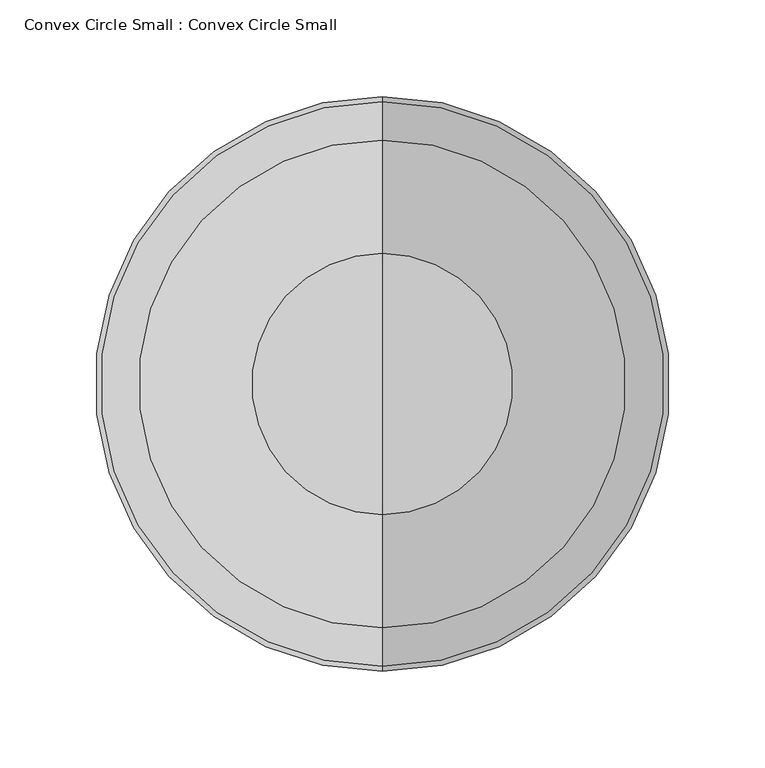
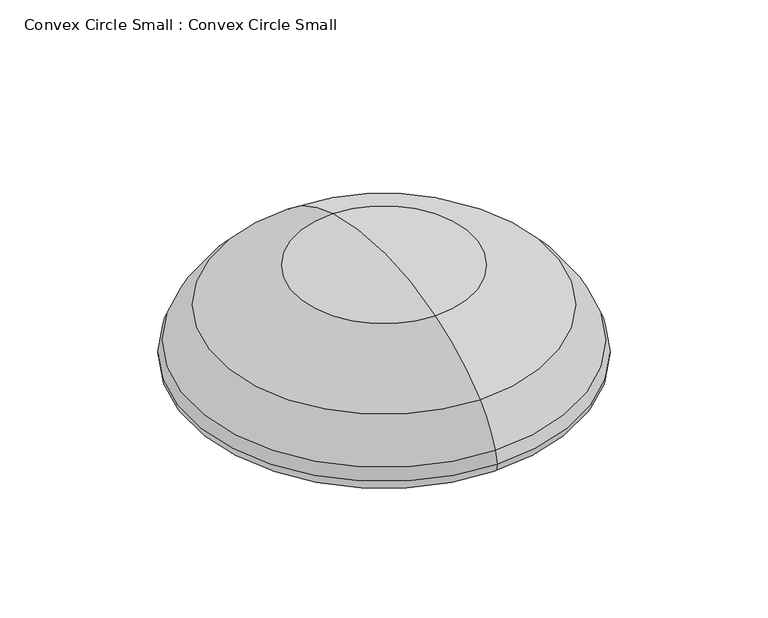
"""IFC4 building model written with IfcOpenShell, lengths in millimetres: furniture geometry, Convex Circle Small : Convex Circle Small."""

from ifc_helpers import new_model, si_unit, point, frame, origin, place, context, project, spatial, polyline, circle_curve, ellipse_curve, trimmed, source, transform, mapped, element, save
from ifc_brep_helpers import plane_surface, cylinder_surface, revolved_surface, advanced_brep


def convex_circle_small_convex_circle_small_b8fd611a(model_context):
    return source(origin(), model_context, "Body", "AdvancedBrep", [
        advanced_brep(
        [(0.0, -200.0, 0.0), (0.0, 50.0, 0.0), (0.0, 50.0, 12.0), (0.0, -200.0, 12.0), (0.0, -213.4704598, 0.0), (0.0, 63.4704598, 0.0), (0.0, -223.6853692, 10.2149093), (0.0, 73.6853692, 10.2149093), (0.0, -221.1133169, 19.8784773), (0.0, 71.1133169, 19.8784773), (0.0, -201.2142221, 48.4897953), (0.0, 51.2142221, 48.4897953), (0.0, -142.6727042, 80.2950266), (0.0, -7.3272958, 80.2950266), (0.0, -75.0, 90.0), (0.0, -75.0, 12.0)],
        [
            (0, 1, circle_curve(frame((0.0, -75.0, 0.0), z_axis=(0.0, 0.0, -1.0), x_axis=(0.0, 1.0, 0.0)), 125.0)),
            (1, 2),
            (2, 3, circle_curve(frame((0.0, -75.0, 12.0), z_axis=(0.0, 0.0, 1.0), x_axis=(0.0, 1.0, 0.0)), 125.0)),
            (3, 0),
            (1, 0, circle_curve(frame((0.0, -75.0, 0.0), z_axis=(0.0, 0.0, -1.0), x_axis=(0.0, 1.0, 0.0)), 125.0)),
            (3, 2, circle_curve(frame((0.0, -75.0, 12.0), z_axis=(0.0, 0.0, 1.0), x_axis=(0.0, 1.0, 0.0)), 125.0)),
            (4, 5, circle_curve(frame((0.0, -75.0, 0.0), z_axis=(0.0, 0.0, -1.0), x_axis=(0.0, 1.0, 0.0)), 138.4704598)),
            (5, 1),
            (0, 4),
            (5, 4, circle_curve(frame((0.0, -75.0, 0.0), z_axis=(0.0, 0.0, -1.0), x_axis=(0.0, 1.0, 0.0)), 138.4704598)),
            (6, 7, circle_curve(frame((0.0, -75.0, 10.2149093), z_axis=(0.0, 0.0, -1.0), x_axis=(0.0, 1.0, 0.0)), 148.6853692)),
            (7, 5, circle_curve(frame((0.0, 63.4704598, 10.2149093), z_axis=(-1.0, 0.0, 0.0), x_axis=(0.0, -1.0, 0.0)), 10.2149093)),
            (4, 6, circle_curve(frame((0.0, -213.4704598, 10.2149093), z_axis=(-1.0, 0.0, 0.0), x_axis=(0.0, 1.0, 0.0)), 10.2149093)),
            (7, 6, circle_curve(frame((0.0, -75.0, 10.2149093), z_axis=(0.0, 0.0, -1.0), x_axis=(0.0, 1.0, 0.0)), 148.6853692)),
            (8, 9, circle_curve(frame((0.0, -75.0, 19.8784773), z_axis=(0.0, 0.0, -1.0), x_axis=(0.0, 1.0, 0.0)), 146.1133169)),
            (9, 7, circle_curve(frame((0.0, 34.2916169, 4.9039525), z_axis=(-1.0, 0.0, 0.0), x_axis=(0.0, -1.0, 0.0)), 39.7501444)),
            (6, 8, circle_curve(frame((0.0, -184.2916169, 4.9039525), z_axis=(-1.0, 0.0, 0.0), x_axis=(0.0, 1.0, 0.0)), 39.7501444)),
            (9, 8, circle_curve(frame((0.0, -75.0, 19.8784773), z_axis=(0.0, 0.0, -1.0), x_axis=(0.0, 1.0, 0.0)), 146.1133169)),
            (10, 11, circle_curve(frame((0.0, -75.0, 48.4897953), z_axis=(0.0, 0.0, -1.0), x_axis=(0.0, 1.0, 0.0)), 126.2142221)),
            (11, 9, circle_curve(frame((0.0, -5.9688704, -12.5064344), z_axis=(-1.0, 0.0, 0.0), x_axis=(0.0, -1.0, 0.0)), 83.6088877)),
            (8, 10, circle_curve(frame((0.0, -144.0311296, -12.5064344), z_axis=(-1.0, 0.0, 0.0), x_axis=(0.0, 1.0, 0.0)), 83.6088877)),
            (11, 10, circle_curve(frame((0.0, -75.0, 48.4897953), z_axis=(0.0, 0.0, -1.0), x_axis=(0.0, 1.0, 0.0)), 126.2142221)),
            (12, 13, circle_curve(frame((0.0, -75.0, 80.2950266), z_axis=(0.0, 0.0, -1.0), x_axis=(0.0, 1.0, 0.0)), 67.6727042)),
            (13, 11, circle_curve(frame((0.0, -47.6578258, -63.7174924), z_axis=(-1.0, 0.0, 0.0), x_axis=(0.0, -1.0, 0.0)), 149.5531921)),
            (10, 12, circle_curve(frame((0.0, -102.3421742, -63.7174924), z_axis=(-1.0, 0.0, 0.0), x_axis=(0.0, 1.0, 0.0)), 149.5531921)),
            (13, 12, circle_curve(frame((0.0, -75.0, 80.2950266), z_axis=(0.0, 0.0, -1.0), x_axis=(0.0, 1.0, 0.0)), 67.6727042)),
            (14, 13, circle_curve(frame((0.0, -73.0258605, -137.0274464), z_axis=(-1.0, 0.0, 0.0), x_axis=(0.0, -1.0, 0.0)), 227.0360294)),
            (12, 14, circle_curve(frame((0.0, -76.9741395, -137.0274464), z_axis=(-1.0, 0.0, 0.0), x_axis=(0.0, 1.0, 0.0)), 227.0360294)),
            (2, 15),
            (15, 3),
        ],
        [
            revolved_surface(polyline([(0.0, 50.0, 12.0), (0.0, 50.0, 0.0)]), (0.0, -75.0, -13.0), (0.0, 0.0, 1.0)),
            plane_surface(frame((0.0, -75.0, 0.0), z_axis=(0.0, 0.0, -1.0), x_axis=(0.0, 1.0, 0.0))),
            revolved_surface(trimmed(ellipse_curve(frame((0.0, 63.4704598, 10.2149093), z_axis=(1.0, 0.0, 0.0), x_axis=(0.0, -1.0, 0.0)), 10.2149093, 10.2149093), [point((0.0, 63.4704598, 0.0))], [point((0.0, 73.6853692, 10.2149093))], True, "CARTESIAN"), (0.0, -75.0, -13.0), (0.0, 0.0, 1.0)),
            revolved_surface(trimmed(ellipse_curve(frame((0.0, 34.2916169, 4.9039525), z_axis=(1.0, 0.0, 0.0), x_axis=(0.0, -1.0, 0.0)), 39.7501444, 39.7501444), [point((0.0, 73.6853692, 10.2149093))], [point((0.0, 71.1133169, 19.8784773))], True, "CARTESIAN"), (0.0, -75.0, -13.0), (0.0, 0.0, 1.0)),
            revolved_surface(trimmed(ellipse_curve(frame((0.0, -5.9688704, -12.5064344), z_axis=(1.0, 0.0, 0.0), x_axis=(0.0, -1.0, 0.0)), 83.6088877, 83.6088877), [point((0.0, 71.1133169, 19.8784773))], [point((0.0, 51.2142221, 48.4897953))], True, "CARTESIAN"), (0.0, -75.0, -13.0), (0.0, 0.0, 1.0)),
            revolved_surface(trimmed(ellipse_curve(frame((0.0, -47.6578258, -63.7174924), z_axis=(1.0, 0.0, 0.0), x_axis=(0.0, -1.0, 0.0)), 149.5531921, 149.5531921), [point((0.0, 51.2142221, 48.4897953))], [point((0.0, -7.3272958, 80.2950266))], True, "CARTESIAN"), (0.0, -75.0, -13.0), (0.0, 0.0, 1.0)),
            revolved_surface(trimmed(ellipse_curve(frame((0.0, -73.0258605, -137.0274464), z_axis=(1.0, 0.0, 0.0), x_axis=(0.0, -1.0, 0.0)), 227.0360294, 227.0360294), [point((0.0, -7.3272958, 80.2950266))], [point((0.0, -75.0, 90.0))], True, "CARTESIAN"), (0.0, -75.0, -13.0), (0.0, 0.0, 1.0)),
            plane_surface(frame((0.0, -75.0, 12.0), z_axis=(0.0, 0.0, -1.0), x_axis=(0.0, 1.0, 0.0))),
        ],
        [
            (0, [[1, 2, 3, 4]]),
            (0, [[5, -4, 6, -2]]),
            (1, [[7, 8, -1, 9]]),
            (1, [[10, -9, -5, -8]]),
            (2, [[11, 12, -7, 13]]),
            (2, [[14, -13, -10, -12]]),
            (3, [[15, 16, -11, 17]]),
            (3, [[18, -17, -14, -16]]),
            (4, [[19, 20, -15, 21]]),
            (4, [[22, -21, -18, -20]]),
            (5, [[23, 24, -19, 25]]),
            (5, [[26, -25, -22, -24]]),
            (6, [[27, -23, 28]]),
            (6, [[-28, -26, -27]]),
            (7, [[-3, 29, 30]]),
            (7, [[-6, -30, -29]]),
        ],
    ),
        advanced_brep(
        [(-124.9999998, -75.0, 0.0), (-124.9999998, -75.0, 12.0), (125.0000002, -75.0, 12.0), (125.0000002, -75.0, 0.0), (2.9999954, -10.1408866, 0.0), (-3.0000046, -10.1408866, 0.0), (-3.0000046, -10.1408866, 8.0), (2.9999954, -10.1408866, 8.0), (-3.0000046, 0.0050114, 0.0), (-3.0000046, 0.0050114, 8.0), (2.9999954, 0.0050114, 0.0), (2.9999954, 0.0050114, 8.0)],
        [
            (0, 1),
            (1, 2, circle_curve(frame((2e-07, -75.0, 12.0), z_axis=(0.0, 0.0, -1.0), x_axis=(-1.0, 0.0, 0.0)), 125.0)),
            (2, 3),
            (3, 0, circle_curve(frame((2e-07, -75.0, 0.0), z_axis=(0.0, 0.0, 1.0), x_axis=(-1.0, 0.0, 0.0)), 125.0)),
            (4, 5, circle_curve(frame((-4.6e-06, -13.4949886, 0.0), z_axis=(0.0, 0.0, -1.0), x_axis=(-0.6666666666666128, 0.745355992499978, 0.0)), 4.5)),
            (5, 6),
            (6, 7, circle_curve(frame((-4.6e-06, -13.4949886, 8.0), z_axis=(0.0, 0.0, 1.0), x_axis=(-0.6666666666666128, 0.745355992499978, 0.0)), 4.5)),
            (7, 4),
            (5, 8),
            (8, 9),
            (9, 6),
            (8, 10, circle_curve(frame((-4.6e-06, 0.0050114, 0.0), z_axis=(0.0, 0.0, -1.0), x_axis=(1.0, 0.0, 0.0)), 3.0)),
            (10, 11),
            (11, 9, circle_curve(frame((-4.6e-06, 0.0050114, 8.0), z_axis=(0.0, 0.0, 1.0), x_axis=(1.0, 0.0, 0.0)), 3.0)),
            (10, 4),
            (7, 11),
            (0, 3, circle_curve(frame((2e-07, -75.0, 0.0), z_axis=(0.0, 0.0, 1.0), x_axis=(-1.0, 0.0, 0.0)), 125.0)),
            (2, 1, circle_curve(frame((2e-07, -75.0, 12.0), z_axis=(0.0, 0.0, -1.0), x_axis=(-1.0, 0.0, 0.0)), 125.0)),
        ],
        [
            cylinder_surface(frame((2e-07, -75.0, 0.0), z_axis=(0.0, 0.0, 1.0), x_axis=(-1.0, 0.0, 0.0)), 125.0),
            revolved_surface(polyline([(-3.0000045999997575, -10.140886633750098, 8.0), (-3.0000045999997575, -10.140886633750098, 0.0)]), (-4.6e-06, -13.4949886, 0.0), (0.0, 0.0, 1.0)),
            plane_surface(frame((-3.0000046, 0.0050114, 0.0), z_axis=(1.0, 0.0, 0.0), x_axis=(0.0, -1.0, 0.0))),
            revolved_surface(polyline([(2.9999954, 0.0050114, 8.0), (2.9999954, 0.0050114, 0.0)]), (-4.6e-06, 0.0050114, 0.0), (0.0, 0.0, 1.0)),
            plane_surface(frame((2.9999954, -10.1408866, 0.0), z_axis=(-1.0, 0.0, 0.0), x_axis=(0.0, 1.0, 0.0))),
            plane_surface(frame((-4.6e-06, -7.5446403, 8.0), z_axis=(0.0, 0.0, -1.0), x_axis=(0.0, 1.0, 0.0))),
            plane_surface(frame((2e-07, -75.0, 12.0), z_axis=(0.0, 0.0, 1.0), x_axis=(0.0, 1.0, 0.0))),
            plane_surface(frame((2e-07, -75.0, 0.0), z_axis=(0.0, 0.0, -1.0), x_axis=(0.0, 1.0, 0.0))),
        ],
        [
            (0, [[1, 2, 3, 4]]),
            (1, [[5, 6, 7, 8]]),
            (2, [[9, 10, 11, -6]]),
            (3, [[12, 13, 14, -10]]),
            (4, [[15, -8, 16, -13]]),
            (5, [[-16, -7, -11, -14]]),
            (0, [[-1, 17, -3, 18]]),
            (6, [[-2, -18]]),
            (7, [[-4, -17], [-5, -15, -12, -9]]),
        ],
    ),
    ])


if __name__ == "__main__":
    model = new_model("IFC4")
    model_context = context("Model", 3, world=origin())
    ifc_project = project(units=[si_unit("LENGTHUNIT", "METRE", prefix="MILLI")], contexts=[model_context])
    site = spatial("IfcSite", under=ifc_project)
    building = spatial("IfcBuilding", under=site)
    placement = place(None, origin())
    convex_circle_small_convex_circle_small_shape = convex_circle_small_convex_circle_small_b8fd611a(model_context)
    element("IfcFurniture", 1, ObjectType="Convex Circle Small : Convex Circle Small", at=placement, inside=building, context=model_context, shape_type="MappedRepresentation", body=[
        mapped(convex_circle_small_convex_circle_small_shape, transform((0.0, 0.0, 0.0), x_axis=(1.0, 0.0, 0.0), y_axis=(0.0, 1.0, 0.0), z_axis=(0.0, 0.0, 1.0))),
    ])
    save(model, "model.ifc")
